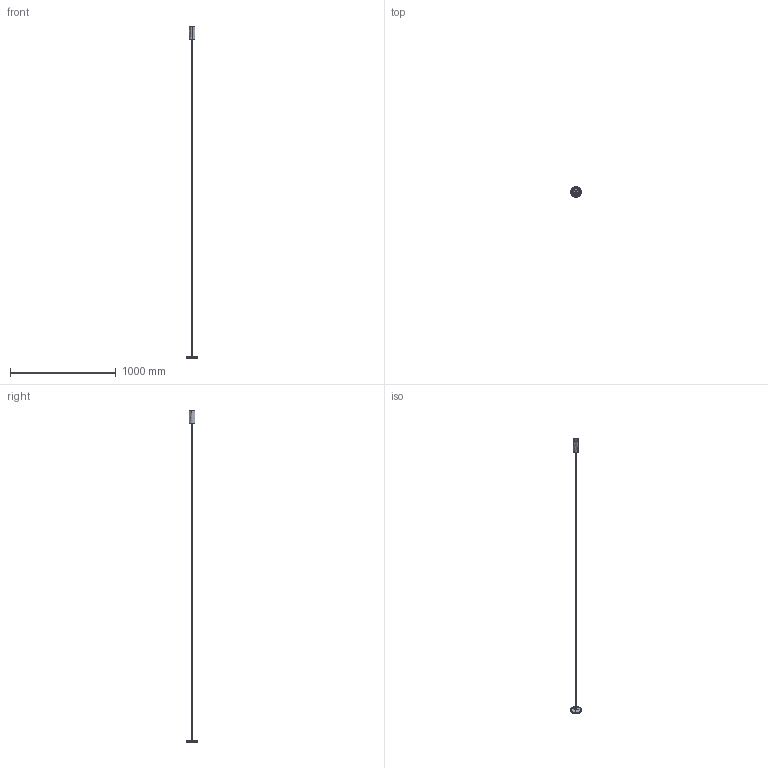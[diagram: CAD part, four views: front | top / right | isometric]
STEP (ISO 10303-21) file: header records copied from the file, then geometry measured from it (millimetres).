
FILE_DESCRIPTION(/* description */ (''),/* implementation_level */ '2;1');
FILE_NAME(/* name */ 'L052__~1',/* time_stamp */ '2024-07-04T14:13:39+02:00',/* author */ (''),/* organization */ (''),/* preprocessor_version */ 'ST-DEVELOPER v16.5',/* originating_system */ '',/* authorisation */ '');
FILE_SCHEMA (('AUTOMOTIVE_DESIGN'));
Length unit declared in the file: millimetre
Products named in the file (1): Document
Bounding box: 100.88 x 100.99 x 3134.9 mm (x, y, z)
Volume: 119751.6 mm3; surface area: 168691.5 mm2
Topology: 11 solids, 11 shells, 288 faces, 681 edges, 412 vertices
Faces by surface type: bspline 220, plane 68
Entity records: 34931 total; most frequent: CARTESIAN_POINT 31060, ORIENTED_EDGE 1334, EDGE_CURVE 667, VERTEX_POINT 412, EDGE_LOOP 317, ADVANCED_FACE 288, FACE_OUTER_BOUND 288, B_SPLINE_CURVE_WITH_KNOTS 277
